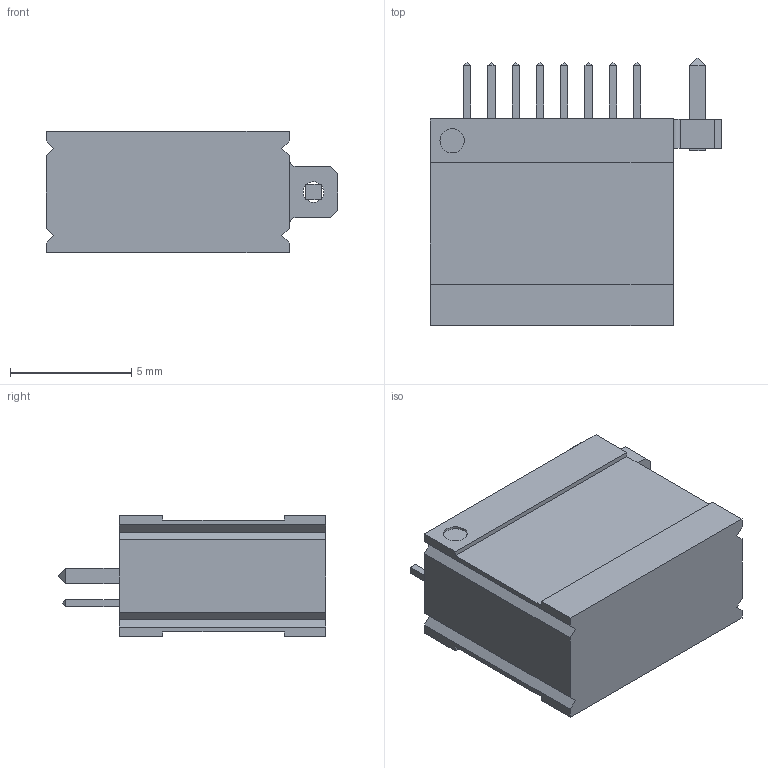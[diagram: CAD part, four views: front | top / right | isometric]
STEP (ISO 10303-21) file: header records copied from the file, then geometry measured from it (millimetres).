
FILE_DESCRIPTION (( 'STEP AP214' ), '1' );
FILE_NAME ('RLM-3D.STEP', '2011-04-07T07:51:49', ( '' ), ( '' ), 'SwSTEP 2.0', 'SolidWorks 2010', '' );
FILE_SCHEMA (( 'AUTOMOTIVE_DESIGN' ));
Length unit declared in the file: millimetre
Products named in the file (1): RLM-3D
Bounding box: 12 x 11 x 5 mm (x, y, z)
Volume: 406.3 mm3; surface area: 416.8 mm2
Topology: 1 solids, 1 shells, 133 faces, 331 edges, 206 vertices
Faces by surface type: plane 118, cylinder 15
Entity records: 4762 total; most frequent: CARTESIAN_POINT 671, ORIENTED_EDGE 662, DIRECTION 629, EDGE_CURVE 331, LINE 301, VECTOR 301, VERTEX_POINT 206, AXIS2_PLACEMENT_3D 164
